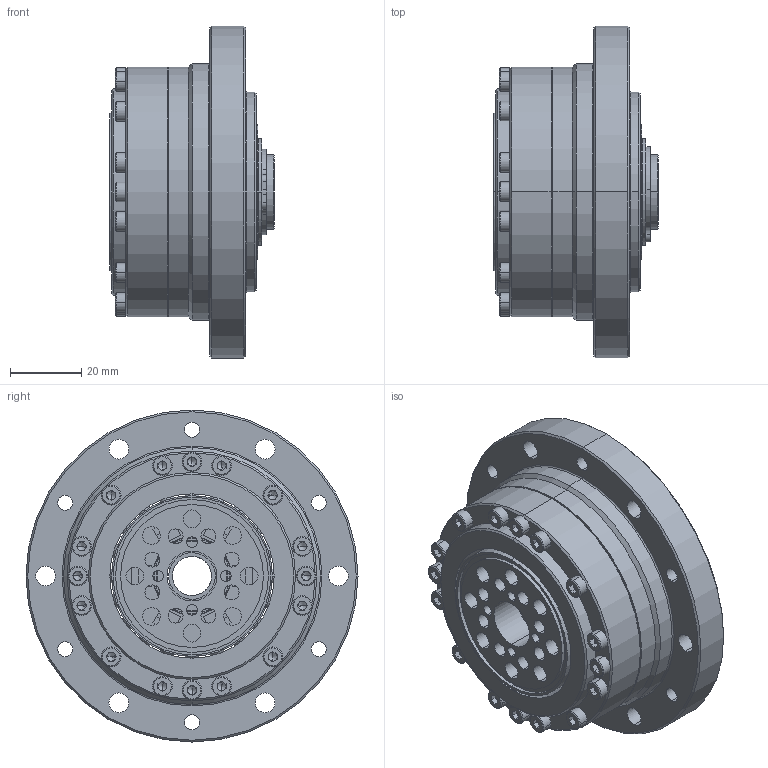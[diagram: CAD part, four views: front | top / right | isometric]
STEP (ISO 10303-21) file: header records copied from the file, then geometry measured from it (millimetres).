
FILE_DESCRIPTION (( 'STEP AP203' ), '1' );
FILE_NAME ('BCS-20-XXX-U-¢ò.STEP', '2019-01-15T03:18:51', ( 'User' ), ( 'China' ), 'SwSTEP 2.0', 'SolidWorks 2015', '' );
FILE_SCHEMA (( 'CONFIG_CONTROL_DESIGN' ));
Length unit declared in the file: millimetre
Products named in the file (1): BCS-20-XXX-U-ｊ
Bounding box: 45.99 x 93 x 93 mm (x, y, z)
Surface area: 66050.3 mm2 (no closed solid volume)
Topology: 0 solids, 49 shells, 680 faces, 2046 edges, 1304 vertices
Faces by surface type: cylinder 218, plane 193, cone 175, torus 52, sphere 40, bspline 2
Entity records: 22435 total; most frequent: CARTESIAN_POINT 4409, DIRECTION 4106, ORIENTED_EDGE 3242, EDGE_CURVE 1914, AXIS2_PLACEMENT_3D 1645, VERTEX_POINT 1244, CIRCLE 966, EDGE_LOOP 833
